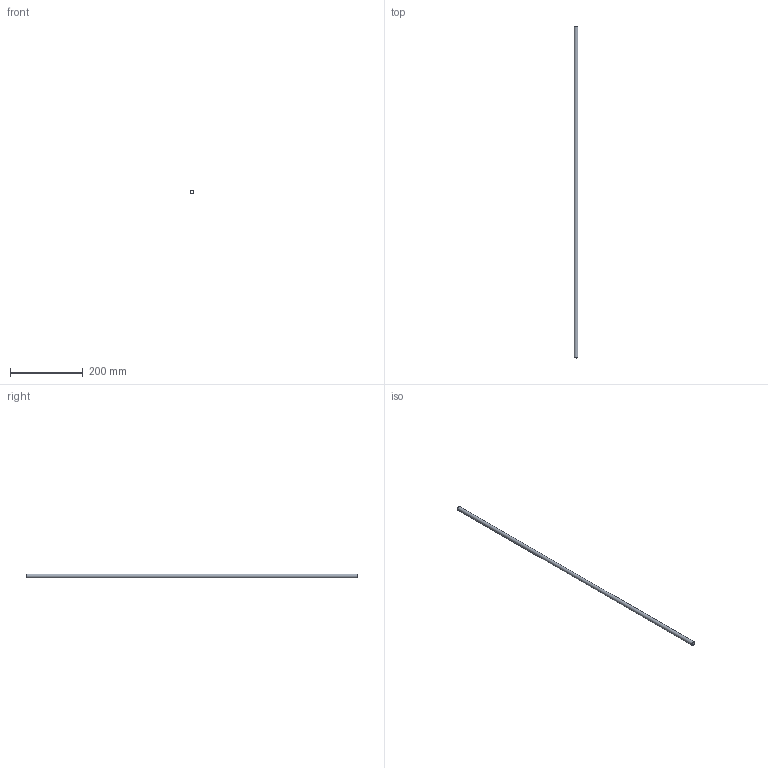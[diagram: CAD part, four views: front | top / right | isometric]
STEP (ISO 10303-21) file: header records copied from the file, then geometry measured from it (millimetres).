
FILE_DESCRIPTION(/* description */ (''),/* implementation_level */ '2;1');
FILE_NAME(/* name */ 'C:/Users/drich/Desktop/437T-36 v1.step',/* time_stamp */ '2019-12-27T17:33:09-06:00',/* author */ (''),/* organization */ (''),/* preprocessor_version */ 'ST-DEVELOPER v18',/* originating_system */ 'Autodesk Translation Framework v8.12.0.6',/* authorisation */ '');
FILE_SCHEMA (('AUTOMOTIVE_DESIGN { 1 0 10303 214 3 1 1 }'));
Length unit declared in the file: inch
Products named in the file (1): 437T-36
Bounding box: 10.98 x 914.4 x 10.98 mm (x, y, z)
Volume: 42878.5 mm3; surface area: 54020.2 mm2
Topology: 1 solids, 1 shells, 6 faces, 14 edges, 10 vertices
Faces by surface type: cone 2, cylinder 2, plane 2
Full cylindrical faces by diameter (mm): 7.798 x1, 10.978 x1
Entity records: 230 total; most frequent: DIRECTION 38, CARTESIAN_POINT 31, ORIENTED_EDGE 28, AXIS2_PLACEMENT_3D 17, EDGE_CURVE 14, CIRCLE 10, VERTEX_POINT 10, EDGE_LOOP 8
